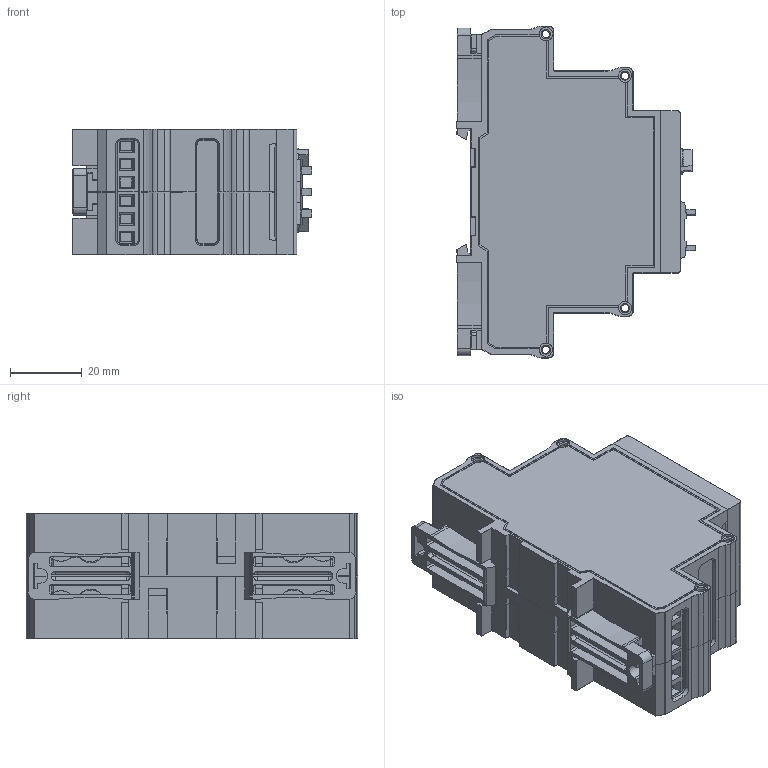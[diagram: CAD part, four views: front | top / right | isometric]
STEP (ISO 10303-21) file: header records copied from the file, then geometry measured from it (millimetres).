
FILE_DESCRIPTION(('STEP AP242'), '1');
FILE_NAME('ﾑ碚濱ﾐﾂﾎ-ﾏ3-081', '', ('UNSPECIFIED'), ('UNSPECIFIED'), 'C3D Converter', 'C3D Toolkit', '');
FILE_SCHEMA(('AP242_MANAGED_MODEL_BASED_3D_ENGINEERING_MIM_LF { 1 0 10303 442 1 1 4 }'));
Length unit declared in the file: millimetre
Products named in the file (17): Case_UC1-2sR-2024_SimpleModel_17mm; Case13-18-23mm_2step_Lock_v01a_Build20140909_1552; Case_UC1-2sR-2024_Plug_35mm; DG128-5.08_Configurable_5.08x3; R-knob_2017_Hex2mm__Џｮ гｬｮｫзｭЁо
Assembly tree (25 placements, depth 4):
  (unnamed)
    Case_UC1-2sR-2024_SimpleModel_17mm  x2
    (unnamed)
    Case13-18-23mm_2step_Lock_v01a_Build20140909_1552  x2
    Case_UC1-2sR-2024_Plug_35mm  x2
    DG128-5.08_Configurable_5.08x3  x4
    (unnamed)
      (unnamed)  x3
        (unnamed)
        (unnamed)
    R-knob_2017_Hex2mm__Џｮ гｬｮｫзｭЁо  x2
    (unnamed)
    (unnamed)
    (unnamed)
    (unnamed)
    (unnamed)
    (unnamed)
Bounding box: 66.63 x 92.4 x 35 mm (x, y, z)
Volume: 40116.9 mm3; surface area: 58883.4 mm2
Topology: 59 solids, 61 shells, 5540 faces, 15277 edges, 9886 vertices
Faces by surface type: plane 3717, extrusion 919, cylinder 600, torus 146, cone 74, sphere 48, bspline 36
Full cylindrical faces by diameter (mm): 1.238 x12, 2.1 x10, 2.2 x2, 3.7 x8, 3.9 x12, 4.5 x2, 5.2 x2, 12.6 x3
Entity records: 167444 total; most frequent: CARTESIAN_POINT 33386, ORIENTED_EDGE 22690, DIRECTION 17204, EDGE_CURVE 11345, VECTOR 9634, LINE 8715, VERTEX_POINT 7467, EDGE_LOOP 4172
